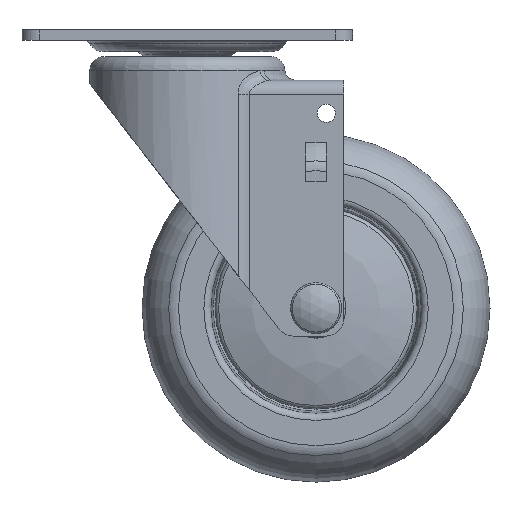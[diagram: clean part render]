
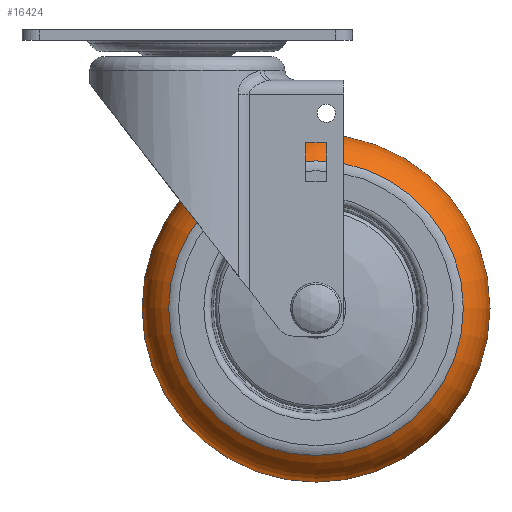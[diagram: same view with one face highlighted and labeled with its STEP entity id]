
A CAD part, front view. The second image highlights one B-rep face of the part: STEP entity #16424.
In plain terms, the highlighted toroidal (fillet/blend) face has major radius 32.404 mm and minor radius 17.6 mm.
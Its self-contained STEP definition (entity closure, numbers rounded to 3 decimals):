
#192=TOROIDAL_SURFACE('',#17490,32.405,17.6);
#374=CIRCLE('',#17372,50.);
#437=CIRCLE('',#17489,42.343);
#680=FACE_BOUND('',#2564,.T.);
#1515=FACE_OUTER_BOUND('',#2563,.T.);
#2563=EDGE_LOOP('',(#14494));
#2564=EDGE_LOOP('',(#14495));
#7942=VERTEX_POINT('',#26032);
#8005=VERTEX_POINT('',#26302);
#10132=EDGE_CURVE('',#7942,#7942,#374,.T.);
#10198=EDGE_CURVE('',#8005,#8005,#437,.T.);
#14494=ORIENTED_EDGE('',*,*,#10198,.T.);
#14495=ORIENTED_EDGE('',*,*,#10132,.F.);
#16424=ADVANCED_FACE('',(#1515,#680),#192,.T.);
#17372=AXIS2_PLACEMENT_3D('',#26033,#21198,#21199);
#17489=AXIS2_PLACEMENT_3D('',#26303,#21432,#21433);
#17490=AXIS2_PLACEMENT_3D('',#26304,#21434,#21435);
#21198=DIRECTION('center_axis',(0.,1.,0.));
#21199=DIRECTION('ref_axis',(1.,0.,0.));
#21432=DIRECTION('center_axis',(0.,1.,0.));
#21433=DIRECTION('ref_axis',(1.,0.,0.));
#21434=DIRECTION('center_axis',(0.,1.,0.));
#21435=DIRECTION('ref_axis',(0.,0.,1.));
#26032=CARTESIAN_POINT('',(28.5,0.,25.1));
#26033=CARTESIAN_POINT('Origin',(28.5,0.,-24.9));
#26302=CARTESIAN_POINT('',(28.5,-14.127,17.443));
#26303=CARTESIAN_POINT('Origin',(28.5,-14.127,-24.9));
#26304=CARTESIAN_POINT('Origin',(28.5,0.399,-24.9));
